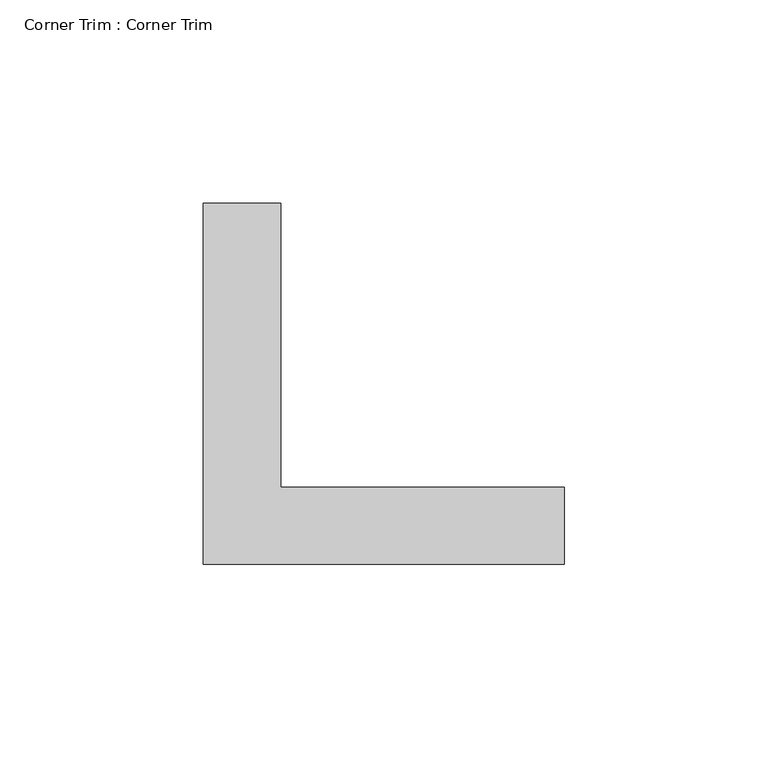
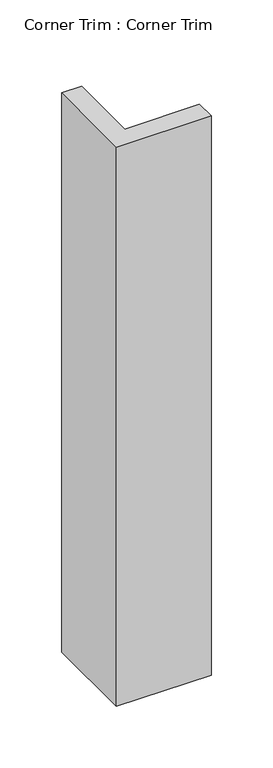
"""IFC4 building model written with IfcOpenShell, lengths in millimetres: proxy geometry, Corner Trim : Corner Trim."""

from ifc_helpers import new_model, si_unit, origin, origin_with_axes, place, context, project, spatial, polyline, outline, extrude, source, transform, mapped, element, save


def corner_trim_corner_trim_bfd5a675(model_context):
    return source(origin(), model_context, "Body", "SweptSolid", [
        extrude(outline(polyline([(0.0, 0.0), (0.0, 88.9), (19.05, 88.9), (19.05, 19.05), (88.9, 19.05), (88.9, 0.0), (0.0, 0.0)])), origin_with_axes(), (0.0, 0.0, 1.0), 554.0052003),
    ])


if __name__ == "__main__":
    model = new_model("IFC4")
    model_context = context("Model", 3, world=origin())
    ifc_project = project(units=[si_unit("LENGTHUNIT", "METRE", prefix="MILLI")], contexts=[model_context])
    site = spatial("IfcSite", under=ifc_project)
    building = spatial("IfcBuilding", under=site)
    placement = place(None, origin())
    corner_trim_corner_trim_shape = corner_trim_corner_trim_bfd5a675(model_context)
    element("IfcBuildingElementProxy", 1, Name="Corner Trim : Corner Trim", ObjectType="Corner Trim : Corner Trim", at=placement, inside=building, context=model_context, shape_type="MappedRepresentation", body=[
        mapped(corner_trim_corner_trim_shape, transform((0.0, 0.0, 0.0), x_axis=(1.0, 0.0, 0.0), y_axis=(0.0, 1.0, 0.0), z_axis=(0.0, 0.0, 1.0))),
    ])
    save(model, "model.ifc")
